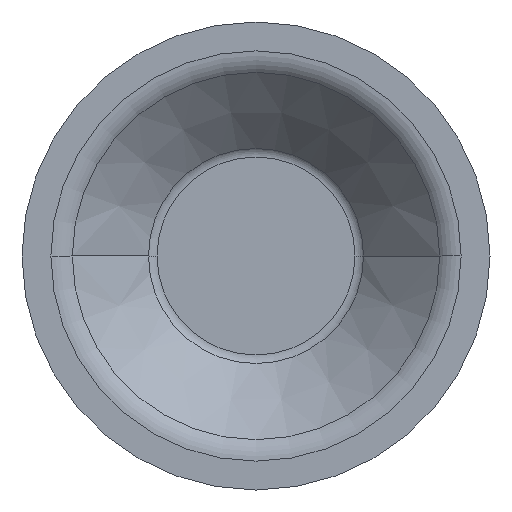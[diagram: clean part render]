
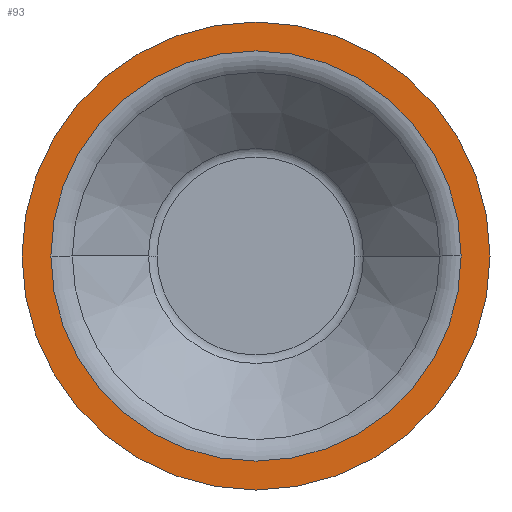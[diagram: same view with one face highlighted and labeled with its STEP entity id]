
A CAD part, front view. The second image highlights one B-rep face of the part: STEP entity #93.
In plain terms, the highlighted planar face has unit normal (0, -1, 0).
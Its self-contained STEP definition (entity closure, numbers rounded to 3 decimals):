
#56 = EDGE_CURVE ( 'NONE', #1576, #292, #225, .T. ) ;
#93 = ADVANCED_FACE ( 'NONE', ( #480, #581 ), #710, .T. ) ;
#154 = ORIENTED_EDGE ( 'NONE', *, *, #56, .F. ) ;
#185 = DIRECTION ( 'NONE',  ( 0., -1., 0. ) ) ;
#211 = DIRECTION ( 'NONE',  ( 1., 0., 0. ) ) ;
#224 = DIRECTION ( 'NONE',  ( 0., -1., 0. ) ) ;
#225 = CIRCLE ( 'NONE', #1054, 33.312 ) ;
#228 = CARTESIAN_POINT ( 'NONE',  ( 38., -17., 0. ) ) ;
#292 = VERTEX_POINT ( 'NONE', #381 ) ;
#346 = VERTEX_POINT ( 'NONE', #837 ) ;
#356 = AXIS2_PLACEMENT_3D ( 'NONE', #1497, #224, #1077 ) ;
#381 = CARTESIAN_POINT ( 'NONE',  ( 33.312, -17., 0. ) ) ;
#406 = DIRECTION ( 'NONE',  ( 1., 0., 0. ) ) ;
#413 = EDGE_CURVE ( 'NONE', #346, #528, #1300, .T. ) ;
#454 = DIRECTION ( 'NONE',  ( 0., -1., 0. ) ) ;
#480 = FACE_BOUND ( 'NONE', #722, .T. ) ;
#508 = ORIENTED_EDGE ( 'NONE', *, *, #1402, .F. ) ;
#528 = VERTEX_POINT ( 'NONE', #1270 ) ;
#547 = DIRECTION ( 'NONE',  ( 0., -1., 0. ) ) ;
#581 = FACE_OUTER_BOUND ( 'NONE', #1504, .T. ) ;
#631 = ORIENTED_EDGE ( 'NONE', *, *, #845, .T. ) ;
#710 = PLANE ( 'NONE',  #842 ) ;
#722 = EDGE_LOOP ( 'NONE', ( #154, #508 ) ) ;
#787 = DIRECTION ( 'NONE',  ( 0., -1., 0. ) ) ;
#804 = DIRECTION ( 'NONE',  ( -1., 0., 0. ) ) ;
#837 = CARTESIAN_POINT ( 'NONE',  ( 38., -17., 0. ) ) ;
#842 = AXIS2_PLACEMENT_3D ( 'NONE', #228, #454, #211 ) ;
#845 = EDGE_CURVE ( 'NONE', #528, #346, #1354, .T. ) ;
#1018 = ORIENTED_EDGE ( 'NONE', *, *, #413, .T. ) ;
#1031 = AXIS2_PLACEMENT_3D ( 'NONE', #1132, #547, #406 ) ;
#1054 = AXIS2_PLACEMENT_3D ( 'NONE', #1449, #787, #804 ) ;
#1077 = DIRECTION ( 'NONE',  ( 1., 0., 0. ) ) ;
#1132 = CARTESIAN_POINT ( 'NONE',  ( 0., -17., 0. ) ) ;
#1222 = AXIS2_PLACEMENT_3D ( 'NONE', #1304, #185, #1319 ) ;
#1224 = CARTESIAN_POINT ( 'NONE',  ( -33.312, -17., 0. ) ) ;
#1270 = CARTESIAN_POINT ( 'NONE',  ( -38., -17., 0. ) ) ;
#1300 = CIRCLE ( 'NONE', #356, 38. ) ;
#1304 = CARTESIAN_POINT ( 'NONE',  ( 0., -17., 0. ) ) ;
#1319 = DIRECTION ( 'NONE',  ( -1., 0., 0. ) ) ;
#1354 = CIRCLE ( 'NONE', #1031, 38. ) ;
#1402 = EDGE_CURVE ( 'NONE', #292, #1576, #1421, .T. ) ;
#1421 = CIRCLE ( 'NONE', #1222, 33.312 ) ;
#1449 = CARTESIAN_POINT ( 'NONE',  ( 0., -17., 0. ) ) ;
#1497 = CARTESIAN_POINT ( 'NONE',  ( 0., -17., 0. ) ) ;
#1504 = EDGE_LOOP ( 'NONE', ( #1018, #631 ) ) ;
#1576 = VERTEX_POINT ( 'NONE', #1224 ) ;
